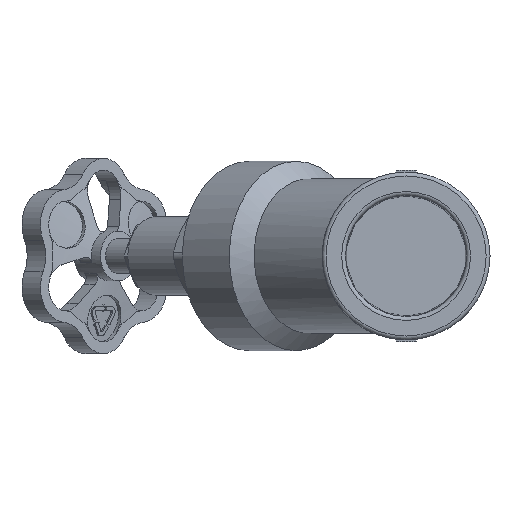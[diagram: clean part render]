
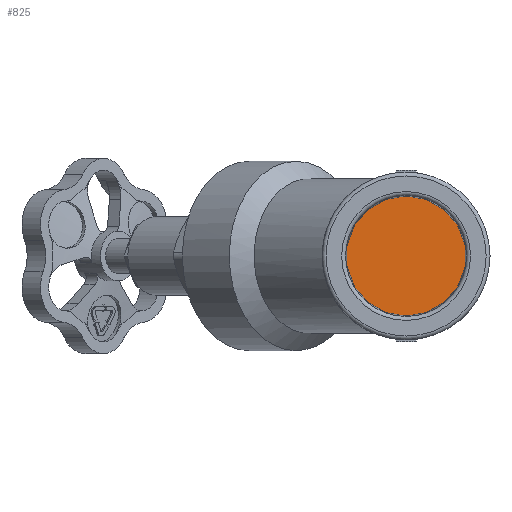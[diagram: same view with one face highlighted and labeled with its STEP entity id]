
A CAD part, left-side view. The second image highlights one B-rep face of the part: STEP entity #825.
In plain terms, the highlighted planar face has unit normal (-1, 0, 0).
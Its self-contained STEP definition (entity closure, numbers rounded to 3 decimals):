
#825=ADVANCED_FACE('',(#5508),#5510,.T.);
#5508=FACE_BOUND('',#5509,.T.);
#5509=EDGE_LOOP('',(#10347));
#5510=PLANE('',#5511);
#5511=AXIS2_PLACEMENT_3D('',#5512,#5513,#5514);
#5512=CARTESIAN_POINT('',(-3.63,0.,0.));
#5513=DIRECTION('',(-1.,0.,0.));
#5514=DIRECTION('',(0.,0.,1.));
#10347=ORIENTED_EDGE('',*,*,#12245,.F.);
#12245=EDGE_CURVE('',#15273,#15273,#15274,.T.);
#15273=VERTEX_POINT('',#29591);
#15274=CIRCLE('',#29592,15.35);
#29591=CARTESIAN_POINT('',(-3.63,0.,15.35));
#29592=AXIS2_PLACEMENT_3D('',#29593,#29594,#29595);
#29593=CARTESIAN_POINT('',(-3.63,0.,0.));
#29594=DIRECTION('',(1.,0.,0.));
#29595=DIRECTION('',(0.,0.,1.));
